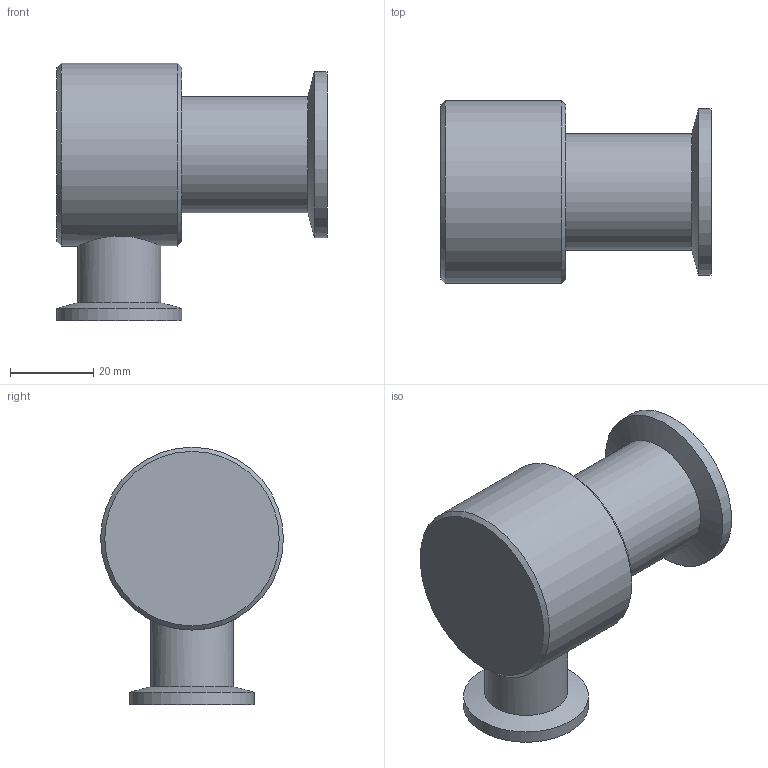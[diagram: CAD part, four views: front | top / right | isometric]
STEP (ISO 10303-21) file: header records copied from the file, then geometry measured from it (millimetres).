
FILE_DESCRIPTION( ( 'Unknown' ), '1' );
FILE_NAME( 'X:/Daten ( aktueller Bestand )/Projekte und Zeichnungen/Solid Edge/1 Kleinflanschverzweigungen/VA/Reduzierwinkelstück VA/1186.stp', 'Unknown', ( 'Unknown' ), ( 'Unknown' ), 'XStep 1.0', 'Unknown', ' ' );
FILE_SCHEMA( ( 'automotive_design' ) );
Length unit declared in the file: millimetre
Products named in the file (1): 1
Bounding box: 65 x 44 x 62 mm (x, y, z)
Volume: 42119.8 mm3; surface area: 19035.1 mm2
Topology: 1 solids, 1 shells, 20 faces, 36 edges, 23 vertices
Faces by surface type: cylinder 9, plane 7, cone 4
Full cylindrical faces by diameter (mm): 16 x1, 17.2 x1, 20 x1, 25 x1, 26.2 x1, 28 x1, 30 x1, 40 x1, 44 x1
Entity records: 764 total; most frequent: CARTESIAN_POINT 247, DIRECTION 78, EDGE_LOOP 40, ORIENTED_EDGE 40, AXIS2_PLACEMENT_3D 39, FACE_OUTER_BOUND 29, STYLED_ITEM 20, PRESENTATION_STYLE_ASSIGNMENT 20
